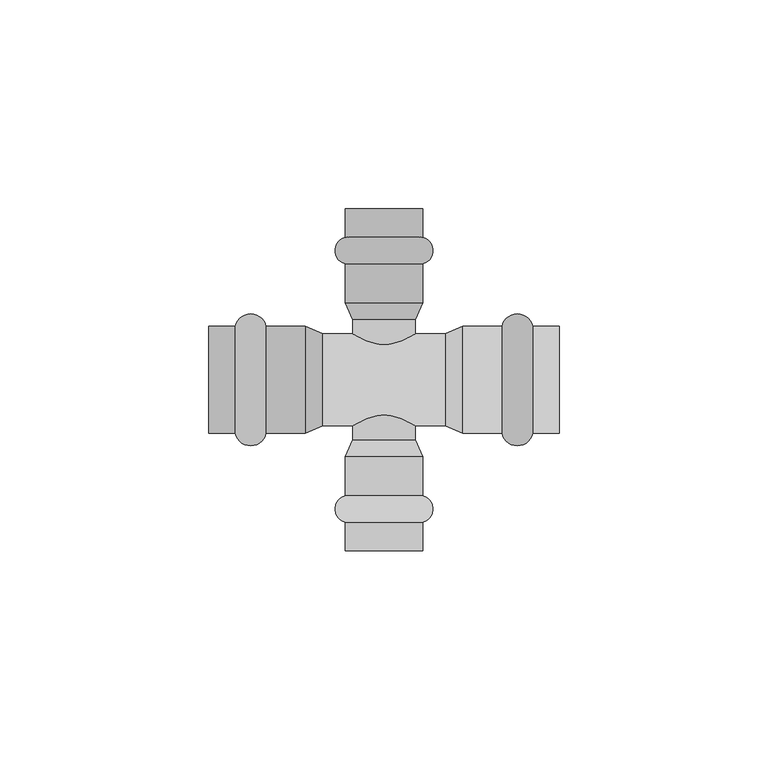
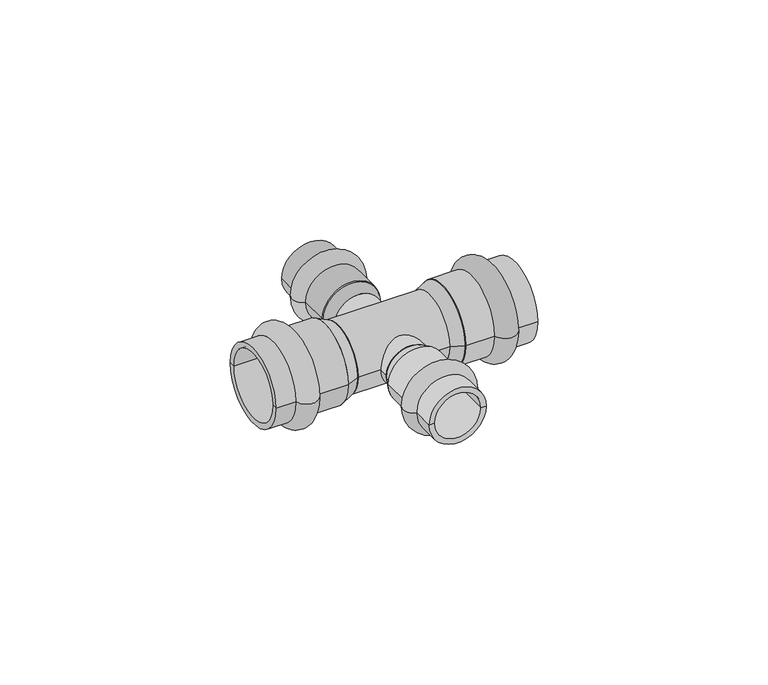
"""IFC4 building model written with IfcOpenShell, lengths in millimetres: pipe fitting geometry, VALTEC_VTi.941.I_Крестовина нержавеющая сталь : VTi.941.I."""

from ifc_helpers import new_model, si_unit, point, frame, origin, origin_2d, place, context, project, spatial, polyline, circle_curve, ellipse_curve, trimmed, segment, composite_curve, outline, extrude, source, transform, mapped, element, save
from ifc_brep_helpers import plane_surface, cylinder_surface, revolved_surface, advanced_brep


def pipe_fitting_c23358fb(model_context):
    return source(origin(), model_context, "Body", "SolidModel", [
        advanced_brep(
        [(9.25, -34.1122777, 0.0), (-9.25, -34.1122777, 0.0), (-9.25, -27.7877223, 0.0), (9.25, -27.7877223, 0.0), (9.25, -41.0, 0.0), (-9.25, -41.0, 0.0), (7.5, -41.0, 0.0), (-7.5, -41.0, 0.0), (7.5, -18.45, 0.0), (-7.5, -18.45, 0.0), (9.25, -18.45, 0.0), (-9.25, -18.45, 0.0)],
        [
            (0, 1, circle_curve(frame((0.0, -34.1122777, 0.0), z_axis=(0.0, 1.0, 0.0), x_axis=(-1.0, 0.0, 0.0)), 9.25)),
            (1, 2, circle_curve(frame((-8.5, -30.95, 0.0), z_axis=(0.0, 0.0, -1.0), x_axis=(0.0, 1.0, 0.0)), 3.25)),
            (2, 3, circle_curve(frame((0.0, -27.7877223, 0.0), z_axis=(0.0, -1.0, 0.0), x_axis=(-1.0, 0.0, 0.0)), 9.25)),
            (3, 0, circle_curve(frame((8.5, -30.95, 0.0), z_axis=(0.0, 0.0, -1.0), x_axis=(0.0, 1.0, 0.0)), 3.25)),
            (1, 0, circle_curve(frame((0.0, -34.1122777, 0.0), z_axis=(0.0, 1.0, 0.0), x_axis=(-1.0, 0.0, 0.0)), 9.25)),
            (3, 2, circle_curve(frame((0.0, -27.7877223, 0.0), z_axis=(0.0, -1.0, 0.0), x_axis=(-1.0, 0.0, 0.0)), 9.25)),
            (4, 5, circle_curve(frame((0.0, -41.0, 0.0), z_axis=(0.0, 1.0, 0.0), x_axis=(-1.0, 0.0, 0.0)), 9.25)),
            (5, 1),
            (0, 4),
            (5, 4, circle_curve(frame((0.0, -41.0, 0.0), z_axis=(0.0, 1.0, 0.0), x_axis=(-1.0, 0.0, 0.0)), 9.25)),
            (6, 7, circle_curve(frame((0.0, -41.0, 0.0), z_axis=(0.0, 1.0, 0.0), x_axis=(-1.0, 0.0, 0.0)), 7.5)),
            (7, 5),
            (4, 6),
            (7, 6, circle_curve(frame((0.0, -41.0, 0.0), z_axis=(0.0, 1.0, 0.0), x_axis=(-1.0, 0.0, 0.0)), 7.5)),
            (8, 9, circle_curve(frame((0.0, -18.45, 0.0), z_axis=(0.0, 1.0, 0.0), x_axis=(-1.0, 0.0, 0.0)), 7.5)),
            (9, 7),
            (6, 8),
            (9, 8, circle_curve(frame((0.0, -18.45, 0.0), z_axis=(0.0, 1.0, 0.0), x_axis=(-1.0, 0.0, 0.0)), 7.5)),
            (10, 11, circle_curve(frame((0.0, -18.45, 0.0), z_axis=(0.0, 1.0, 0.0), x_axis=(-1.0, 0.0, 0.0)), 9.25)),
            (11, 9),
            (8, 10),
            (11, 10, circle_curve(frame((0.0, -18.45, 0.0), z_axis=(0.0, 1.0, 0.0), x_axis=(-1.0, 0.0, 0.0)), 9.25)),
            (2, 11),
            (10, 3),
        ],
        [
            revolved_surface(trimmed(ellipse_curve(frame((-8.5, -30.95, 0.0), z_axis=(0.0, 0.0, 1.0), x_axis=(0.0, 1.0, 0.0)), 3.25, 3.25), [point((-9.25, -27.7877223, 0.0))], [point((-9.25, -34.1122777, 0.0))], True, "CARTESIAN"), (0.0, -44.5364426, 0.0), (0.0, -1.0, 0.0)),
            cylinder_surface(frame((0.0, -44.5364426, 0.0), z_axis=(0.0, -1.0, 0.0), x_axis=(-1.0, 0.0, 0.0)), 9.25),
            plane_surface(frame((0.0, -41.0, 0.0), z_axis=(0.0, -1.0, 0.0), x_axis=(-1.0, 0.0, 0.0))),
            revolved_surface(polyline([(-7.5, -41.0, 0.0), (-7.5, -18.45, 0.0)]), (0.0, -44.5364426, 0.0), (0.0, -1.0, 0.0)),
            plane_surface(frame((0.0, -18.45, 0.0), z_axis=(0.0, 1.0, 0.0), x_axis=(-1.0, 0.0, 0.0))),
        ],
        [
            (0, [[1, 2, 3, 4]]),
            (0, [[5, -4, 6, -2]]),
            (1, [[7, 8, -1, 9]]),
            (1, [[10, -9, -5, -8]]),
            (2, [[11, 12, -7, 13]]),
            (2, [[14, -13, -10, -12]]),
            (3, [[15, 16, -11, 17]]),
            (3, [[18, -17, -14, -16]]),
            (4, [[19, 20, -15, 21]]),
            (4, [[22, -21, -18, -20]]),
            (1, [[-3, 23, -19, 24]]),
            (1, [[-6, -24, -22, -23]]),
        ],
    ),
        advanced_brep(
        [(35.6242346, 12.8, 0.0), (35.6242346, -12.8, 0.0), (28.2757654, -12.8, 0.0), (28.2757654, 12.8, 0.0), (42.0, 12.8, 0.0), (42.0, -12.8, 0.0), (42.0, 11.0, 0.0), (42.0, -11.0, 0.0), (18.9, 11.0, 0.0), (18.9, -11.0, 0.0), (18.9, 12.8, 0.0), (18.9, -12.8, 0.0)],
        [
            (0, 1, circle_curve(frame((35.6242346, 0.0, 0.0), z_axis=(-1.0, 0.0, 0.0), x_axis=(0.0, -1.0, 0.0)), 12.8)),
            (1, 2, circle_curve(frame((31.95, -12.05, 0.0), z_axis=(0.0, 0.0, -1.0), x_axis=(-1.0, 0.0, 0.0)), 3.75)),
            (2, 3, circle_curve(frame((28.2757654, 0.0, 0.0), z_axis=(1.0, 0.0, 0.0), x_axis=(0.0, -1.0, 0.0)), 12.8)),
            (3, 0, circle_curve(frame((31.95, 12.05, 0.0), z_axis=(0.0, 0.0, -1.0), x_axis=(-1.0, 0.0, 0.0)), 3.75)),
            (1, 0, circle_curve(frame((35.6242346, 0.0, 0.0), z_axis=(-1.0, 0.0, 0.0), x_axis=(0.0, -1.0, 0.0)), 12.8)),
            (3, 2, circle_curve(frame((28.2757654, 0.0, 0.0), z_axis=(1.0, 0.0, 0.0), x_axis=(0.0, -1.0, 0.0)), 12.8)),
            (4, 5, circle_curve(frame((42.0, 0.0, 0.0), z_axis=(-1.0, 0.0, 0.0), x_axis=(0.0, -1.0, 0.0)), 12.8)),
            (5, 1),
            (0, 4),
            (5, 4, circle_curve(frame((42.0, 0.0, 0.0), z_axis=(-1.0, 0.0, 0.0), x_axis=(0.0, -1.0, 0.0)), 12.8)),
            (6, 7, circle_curve(frame((42.0, 0.0, 0.0), z_axis=(-1.0, 0.0, 0.0), x_axis=(0.0, -1.0, 0.0)), 11.0)),
            (7, 5),
            (4, 6),
            (7, 6, circle_curve(frame((42.0, 0.0, 0.0), z_axis=(-1.0, 0.0, 0.0), x_axis=(0.0, -1.0, 0.0)), 11.0)),
            (8, 9, circle_curve(frame((18.9, 0.0, 0.0), z_axis=(-1.0, 0.0, 0.0), x_axis=(0.0, -1.0, 0.0)), 11.0)),
            (9, 7),
            (6, 8),
            (9, 8, circle_curve(frame((18.9, 0.0, 0.0), z_axis=(-1.0, 0.0, 0.0), x_axis=(0.0, -1.0, 0.0)), 11.0)),
            (10, 11, circle_curve(frame((18.9, 0.0, 0.0), z_axis=(-1.0, 0.0, 0.0), x_axis=(0.0, -1.0, 0.0)), 12.8)),
            (11, 9),
            (8, 10),
            (11, 10, circle_curve(frame((18.9, 0.0, 0.0), z_axis=(-1.0, 0.0, 0.0), x_axis=(0.0, -1.0, 0.0)), 12.8)),
            (2, 11),
            (10, 3),
        ],
        [
            revolved_surface(trimmed(ellipse_curve(frame((31.95, -12.05, 0.0), z_axis=(0.0, 0.0, 1.0), x_axis=(-1.0, 0.0, 0.0)), 3.75, 3.75), [point((28.2757654, -12.8, 0.0))], [point((35.6242346, -12.8, 0.0))], True, "CARTESIAN"), (45.5364426, 0.0, 0.0), (1.0, 0.0, 0.0)),
            cylinder_surface(frame((45.5364426, 0.0, 0.0), z_axis=(1.0, 0.0, 0.0), x_axis=(0.0, -1.0, 0.0)), 12.8),
            plane_surface(frame((42.0, 0.0, 0.0), z_axis=(1.0, 0.0, 0.0), x_axis=(0.0, -1.0, 0.0))),
            revolved_surface(polyline([(42.0, -11.0, 0.0), (18.9, -11.0, 0.0)]), (45.5364426, 0.0, 0.0), (1.0, 0.0, 0.0)),
            plane_surface(frame((18.9, 0.0, 0.0), z_axis=(-1.0, 0.0, 0.0), x_axis=(0.0, -1.0, 0.0))),
        ],
        [
            (0, [[1, 2, 3, 4]]),
            (0, [[5, -4, 6, -2]]),
            (1, [[7, 8, -1, 9]]),
            (1, [[10, -9, -5, -8]]),
            (2, [[11, 12, -7, 13]]),
            (2, [[14, -13, -10, -12]]),
            (3, [[15, 16, -11, 17]]),
            (3, [[18, -17, -14, -16]]),
            (4, [[19, 20, -15, 21]]),
            (4, [[22, -21, -18, -20]]),
            (1, [[-3, 23, -19, 24]]),
            (1, [[-6, -24, -22, -23]]),
        ],
    ),
        advanced_brep(
        [(-35.6242346, -12.8, 0.0), (-35.6242346, 12.8, 0.0), (-28.2757654, 12.8, 0.0), (-28.2757654, -12.8, 0.0), (-42.0, -12.8, 0.0), (-42.0, 12.8, 0.0), (-42.0, -11.0, 0.0), (-42.0, 11.0, 0.0), (-18.9, -11.0, 0.0), (-18.9, 11.0, 0.0), (-18.9, -12.8, 0.0), (-18.9, 12.8, 0.0)],
        [
            (0, 1, circle_curve(frame((-35.6242346, 0.0, 0.0), z_axis=(1.0, 0.0, 0.0), x_axis=(0.0, 1.0, 0.0)), 12.8)),
            (1, 2, circle_curve(frame((-31.95, 12.05, 0.0), z_axis=(0.0, 0.0, -1.0), x_axis=(1.0, 0.0, 0.0)), 3.75)),
            (2, 3, circle_curve(frame((-28.2757654, 0.0, 0.0), z_axis=(-1.0, 0.0, 0.0), x_axis=(0.0, 1.0, 0.0)), 12.8)),
            (3, 0, circle_curve(frame((-31.95, -12.05, 0.0), z_axis=(0.0, 0.0, -1.0), x_axis=(1.0, 0.0, 0.0)), 3.75)),
            (1, 0, circle_curve(frame((-35.6242346, 0.0, 0.0), z_axis=(1.0, 0.0, 0.0), x_axis=(0.0, 1.0, 0.0)), 12.8)),
            (3, 2, circle_curve(frame((-28.2757654, 0.0, 0.0), z_axis=(-1.0, 0.0, 0.0), x_axis=(0.0, 1.0, 0.0)), 12.8)),
            (4, 5, circle_curve(frame((-42.0, 0.0, 0.0), z_axis=(1.0, 0.0, 0.0), x_axis=(0.0, 1.0, 0.0)), 12.8)),
            (5, 1),
            (0, 4),
            (5, 4, circle_curve(frame((-42.0, 0.0, 0.0), z_axis=(1.0, 0.0, 0.0), x_axis=(0.0, 1.0, 0.0)), 12.8)),
            (6, 7, circle_curve(frame((-42.0, 0.0, 0.0), z_axis=(1.0, 0.0, 0.0), x_axis=(0.0, 1.0, 0.0)), 11.0)),
            (7, 5),
            (4, 6),
            (7, 6, circle_curve(frame((-42.0, 0.0, 0.0), z_axis=(1.0, 0.0, 0.0), x_axis=(0.0, 1.0, 0.0)), 11.0)),
            (8, 9, circle_curve(frame((-18.9, 0.0, 0.0), z_axis=(1.0, 0.0, 0.0), x_axis=(0.0, 1.0, 0.0)), 11.0)),
            (9, 7),
            (6, 8),
            (9, 8, circle_curve(frame((-18.9, 0.0, 0.0), z_axis=(1.0, 0.0, 0.0), x_axis=(0.0, 1.0, 0.0)), 11.0)),
            (10, 11, circle_curve(frame((-18.9, 0.0, 0.0), z_axis=(1.0, 0.0, 0.0), x_axis=(0.0, 1.0, 0.0)), 12.8)),
            (11, 9),
            (8, 10),
            (11, 10, circle_curve(frame((-18.9, 0.0, 0.0), z_axis=(1.0, 0.0, 0.0), x_axis=(0.0, 1.0, 0.0)), 12.8)),
            (2, 11),
            (10, 3),
        ],
        [
            revolved_surface(trimmed(ellipse_curve(frame((-31.95, 12.05, 0.0), z_axis=(0.0, 0.0, 1.0), x_axis=(1.0, 0.0, 0.0)), 3.75, 3.75), [point((-28.2757654, 12.8, 0.0))], [point((-35.6242346, 12.8, 0.0))], True, "CARTESIAN"), (-45.5364426, 0.0, 0.0), (-1.0, 0.0, 0.0)),
            cylinder_surface(frame((-45.5364426, 0.0, 0.0), z_axis=(-1.0, 0.0, 0.0), x_axis=(0.0, 1.0, 0.0)), 12.8),
            plane_surface(frame((-42.0, 0.0, 0.0), z_axis=(-1.0, 0.0, 0.0), x_axis=(0.0, 1.0, 0.0))),
            revolved_surface(polyline([(-42.0, 11.0, 0.0), (-18.9, 11.0, 0.0)]), (-45.5364426, 0.0, 0.0), (-1.0, 0.0, 0.0)),
            plane_surface(frame((-18.9, 0.0, 0.0), z_axis=(1.0, 0.0, 0.0), x_axis=(0.0, 1.0, 0.0))),
        ],
        [
            (0, [[1, 2, 3, 4]]),
            (0, [[5, -4, 6, -2]]),
            (1, [[7, 8, -1, 9]]),
            (1, [[10, -9, -5, -8]]),
            (2, [[11, 12, -7, 13]]),
            (2, [[14, -13, -10, -12]]),
            (3, [[15, 16, -11, 17]]),
            (3, [[18, -17, -14, -16]]),
            (4, [[19, 20, -15, 21]]),
            (4, [[22, -21, -18, -20]]),
            (1, [[-3, 23, -19, 24]]),
            (1, [[-6, -24, -22, -23]]),
        ],
    ),
        advanced_brep(
        [(-9.25, 34.1122777, 0.0), (9.25, 34.1122777, 0.0), (9.25, 27.7877223, 0.0), (-9.25, 27.7877223, 0.0), (-9.25, 41.0, 0.0), (9.25, 41.0, 0.0), (-7.5, 41.0, 0.0), (7.5, 41.0, 0.0), (-7.5, 18.45, 0.0), (7.5, 18.45, 0.0), (-9.25, 18.45, 0.0), (9.25, 18.45, 0.0)],
        [
            (0, 1, circle_curve(frame((0.0, 34.1122777, 0.0), z_axis=(0.0, -1.0, 0.0), x_axis=(1.0, 0.0, 0.0)), 9.25)),
            (1, 2, circle_curve(frame((8.5, 30.95, 0.0), z_axis=(0.0, 0.0, -1.0), x_axis=(0.0, -1.0, 0.0)), 3.25)),
            (2, 3, circle_curve(frame((0.0, 27.7877223, 0.0), z_axis=(0.0, 1.0, 0.0), x_axis=(1.0, 0.0, 0.0)), 9.25)),
            (3, 0, circle_curve(frame((-8.5, 30.95, 0.0), z_axis=(0.0, 0.0, -1.0), x_axis=(0.0, -1.0, 0.0)), 3.25)),
            (1, 0, circle_curve(frame((0.0, 34.1122777, 0.0), z_axis=(0.0, -1.0, 0.0), x_axis=(1.0, 0.0, 0.0)), 9.25)),
            (3, 2, circle_curve(frame((0.0, 27.7877223, 0.0), z_axis=(0.0, 1.0, 0.0), x_axis=(1.0, 0.0, 0.0)), 9.25)),
            (4, 5, circle_curve(frame((0.0, 41.0, 0.0), z_axis=(0.0, -1.0, 0.0), x_axis=(1.0, 0.0, 0.0)), 9.25)),
            (5, 1),
            (0, 4),
            (5, 4, circle_curve(frame((0.0, 41.0, 0.0), z_axis=(0.0, -1.0, 0.0), x_axis=(1.0, 0.0, 0.0)), 9.25)),
            (6, 7, circle_curve(frame((0.0, 41.0, 0.0), z_axis=(0.0, -1.0, 0.0), x_axis=(1.0, 0.0, 0.0)), 7.5)),
            (7, 5),
            (4, 6),
            (7, 6, circle_curve(frame((0.0, 41.0, 0.0), z_axis=(0.0, -1.0, 0.0), x_axis=(1.0, 0.0, 0.0)), 7.5)),
            (8, 9, circle_curve(frame((0.0, 18.45, 0.0), z_axis=(0.0, -1.0, 0.0), x_axis=(1.0, 0.0, 0.0)), 7.5)),
            (9, 7),
            (6, 8),
            (9, 8, circle_curve(frame((0.0, 18.45, 0.0), z_axis=(0.0, -1.0, 0.0), x_axis=(1.0, 0.0, 0.0)), 7.5)),
            (10, 11, circle_curve(frame((0.0, 18.45, 0.0), z_axis=(0.0, -1.0, 0.0), x_axis=(1.0, 0.0, 0.0)), 9.25)),
            (11, 9),
            (8, 10),
            (11, 10, circle_curve(frame((0.0, 18.45, 0.0), z_axis=(0.0, -1.0, 0.0), x_axis=(1.0, 0.0, 0.0)), 9.25)),
            (2, 11),
            (10, 3),
        ],
        [
            revolved_surface(trimmed(ellipse_curve(frame((8.5, 30.95, 0.0), z_axis=(0.0, 0.0, 1.0), x_axis=(0.0, -1.0, 0.0)), 3.25, 3.25), [point((9.25, 27.7877223, 0.0))], [point((9.25, 34.1122777, 0.0))], True, "CARTESIAN"), (0.0, 44.5364426, 0.0), (0.0, 1.0, 0.0)),
            cylinder_surface(frame((0.0, 44.5364426, 0.0), z_axis=(0.0, 1.0, 0.0), x_axis=(1.0, 0.0, 0.0)), 9.25),
            plane_surface(frame((0.0, 41.0, 0.0), z_axis=(0.0, 1.0, 0.0), x_axis=(1.0, 0.0, 0.0))),
            revolved_surface(polyline([(7.5, 41.0, 0.0), (7.5, 18.45, 0.0)]), (0.0, 44.5364426, 0.0), (0.0, 1.0, 0.0)),
            plane_surface(frame((0.0, 18.45, 0.0), z_axis=(0.0, -1.0, 0.0), x_axis=(1.0, 0.0, 0.0))),
        ],
        [
            (0, [[1, 2, 3, 4]]),
            (0, [[5, -4, 6, -2]]),
            (1, [[7, 8, -1, 9]]),
            (1, [[10, -9, -5, -8]]),
            (2, [[11, 12, -7, 13]]),
            (2, [[14, -13, -10, -12]]),
            (3, [[15, 16, -11, 17]]),
            (3, [[18, -17, -14, -16]]),
            (4, [[19, 20, -15, 21]]),
            (4, [[22, -21, -18, -20]]),
            (1, [[-3, 23, -19, 24]]),
            (1, [[-6, -24, -22, -23]]),
        ],
    ),
        extrude(outline(composite_curve([segment(trimmed(circle_curve(origin_2d(), 11.0), [point((-11.0, 0.0))], [point((11.0, 0.0))], False, "CARTESIAN"), True, "CONTINUOUS"), segment(trimmed(circle_curve(origin_2d(), 11.0), [point((11.0, 0.0))], [point((-11.0, 0.0))], False, "CARTESIAN"), True, "CONTINUOUS")], self_intersect=False)), frame((-14.7, 0.0, 0.0), z_axis=(1.0, 0.0, 0.0), x_axis=(0.0, 1.0, 0.0)), (0.0, 0.0, 1.0), 29.4),
        extrude(outline(composite_curve([segment(trimmed(circle_curve(origin_2d(), 7.5), [point((0.0, -7.5))], [point((0.0, 7.5))], False, "CARTESIAN"), True, "CONTINUOUS"), segment(trimmed(circle_curve(origin_2d(), 7.5), [point((0.0, 7.5))], [point((0.0, -7.5))], False, "CARTESIAN"), True, "CONTINUOUS")], self_intersect=False)), frame((0.0, -14.35, 0.0), z_axis=(0.0, 1.0, 0.0), x_axis=(0.0, 0.0, 1.0)), (0.0, 0.0, 1.0), 28.7),
        advanced_brep(
        [(-18.9, -12.8, 0.0), (-18.9, 12.8, 0.0), (-14.7, -11.0, 0.0), (-14.7, 11.0, 0.0)],
        [
            (0, 1, circle_curve(frame((-18.9, 0.0, 0.0), z_axis=(-1.0, 0.0, 0.0), x_axis=(0.0, -1.0, 0.0)), 12.8)),
            (1, 0, circle_curve(frame((-18.9, 0.0, 0.0), z_axis=(-1.0, 0.0, 0.0), x_axis=(0.0, 1.0, 0.0)), 12.8)),
            (2, 3, circle_curve(frame((-14.7, 0.0, 0.0), z_axis=(1.0, 0.0, 0.0), x_axis=(0.0, 1.0, 0.0)), 11.0)),
            (3, 2, circle_curve(frame((-14.7, 0.0, 0.0), z_axis=(1.0, 0.0, 0.0), x_axis=(0.0, -1.0, 0.0)), 11.0)),
            (2, 0),
            (1, 3),
        ],
        [
            plane_surface(frame((-18.9, 0.0, 0.0), z_axis=(-1.0, 0.0, 0.0), x_axis=(0.0, 0.0, 1.0))),
            plane_surface(frame((-14.7, 0.0, 0.0), z_axis=(1.0, 0.0, 0.0), x_axis=(0.0, 0.0, 1.0))),
            revolved_surface(polyline([(-14.700000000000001, -11.000000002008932, 0.0), (-18.9, -12.8, 0.0)]), (10.9666667, 0.0, 0.0), (-1.0, 0.0, 0.0)),
            revolved_surface(polyline([(-14.700000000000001, 11.000000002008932, 0.0), (-18.9, 12.8, 0.0)]), (10.9666667, 0.0, 0.0), (-1.0, 0.0, 0.0)),
        ],
        [
            (0, [[1, 2]]),
            (1, [[3, 4]]),
            (2, [[-3, 5, -2, 6]]),
            (3, [[-4, -6, -1, -5]]),
        ],
    ),
        advanced_brep(
        [(18.9, -12.8, 0.0), (18.9, 12.8, 0.0), (14.7, -11.0, 0.0), (14.7, 11.0, 0.0)],
        [
            (0, 1, circle_curve(frame((18.9, 0.0, 0.0), z_axis=(1.0, 0.0, 0.0), x_axis=(0.0, -1.0, 0.0)), 12.8)),
            (1, 0, circle_curve(frame((18.9, 0.0, 0.0), z_axis=(1.0, 0.0, 0.0), x_axis=(0.0, 1.0, 0.0)), 12.8)),
            (2, 3, circle_curve(frame((14.7, 0.0, 0.0), z_axis=(-1.0, 0.0, 0.0), x_axis=(0.0, 1.0, 0.0)), 11.0)),
            (3, 2, circle_curve(frame((14.7, 0.0, 0.0), z_axis=(-1.0, 0.0, 0.0), x_axis=(0.0, -1.0, 0.0)), 11.0)),
            (3, 1),
            (0, 2),
        ],
        [
            plane_surface(frame((18.9, 0.0, 0.0), z_axis=(1.0, 0.0, 0.0), x_axis=(0.0, 0.0, -1.0))),
            plane_surface(frame((14.7, 0.0, 0.0), z_axis=(-1.0, 0.0, 0.0), x_axis=(0.0, 0.0, -1.0))),
            revolved_surface(polyline([(14.700000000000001, 11.000000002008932, 0.0), (18.9, 12.8, 0.0)]), (-10.9666667, 0.0, 0.0), (1.0, 0.0, 0.0)),
            revolved_surface(polyline([(14.700000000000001, -11.000000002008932, 0.0), (18.9, -12.8, 0.0)]), (-10.9666667, 0.0, 0.0), (1.0, 0.0, 0.0)),
        ],
        [
            (0, [[1, 2]]),
            (1, [[3, 4]]),
            (2, [[-4, 5, -1, 6]]),
            (3, [[-3, -6, -2, -5]]),
        ],
    ),
        advanced_brep(
        [(-9.25, -18.45, 0.0), (9.25, -18.45, 0.0), (-7.5, -14.35, 0.0), (7.5, -14.35, 0.0)],
        [
            (0, 1, circle_curve(frame((0.0, -18.45, 0.0), z_axis=(0.0, -1.0, 0.0), x_axis=(-1.0, 0.0, 0.0)), 9.25)),
            (1, 0, circle_curve(frame((0.0, -18.45, 0.0), z_axis=(0.0, -1.0, 0.0), x_axis=(1.0, 0.0, 0.0)), 9.25)),
            (2, 3, circle_curve(frame((0.0, -14.35, 0.0), z_axis=(0.0, 1.0, 0.0), x_axis=(1.0, 0.0, 0.0)), 7.5)),
            (3, 2, circle_curve(frame((0.0, -14.35, 0.0), z_axis=(0.0, 1.0, 0.0), x_axis=(-1.0, 0.0, 0.0)), 7.5)),
            (3, 1),
            (0, 2),
        ],
        [
            plane_surface(frame((0.0, -18.45, 0.0), z_axis=(0.0, -1.0, 0.0), x_axis=(0.0, 0.0, 1.0))),
            plane_surface(frame((0.0, -14.35, 0.0), z_axis=(0.0, 1.0, 0.0), x_axis=(0.0, 0.0, 1.0))),
            revolved_surface(polyline([(7.500000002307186, -14.350000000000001, 0.0), (9.25, -18.45, 0.0)]), (0.0, 3.2214286, 0.0), (0.0, -1.0, 0.0)),
            revolved_surface(polyline([(-7.500000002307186, -14.350000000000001, 0.0), (-9.25, -18.45, 0.0)]), (0.0, 3.2214286, 0.0), (0.0, -1.0, 0.0)),
        ],
        [
            (0, [[1, 2]]),
            (1, [[3, 4]]),
            (2, [[-4, 5, -1, 6]]),
            (3, [[-3, -6, -2, -5]]),
        ],
    ),
        advanced_brep(
        [(-9.25, 18.45, 0.0), (9.25, 18.45, 0.0), (-7.5, 14.35, 0.0), (7.5, 14.35, 0.0)],
        [
            (0, 1, circle_curve(frame((0.0, 18.45, 0.0), z_axis=(0.0, 1.0, 0.0), x_axis=(-1.0, 0.0, 0.0)), 9.25)),
            (1, 0, circle_curve(frame((0.0, 18.45, 0.0), z_axis=(0.0, 1.0, 0.0), x_axis=(1.0, 0.0, 0.0)), 9.25)),
            (2, 3, circle_curve(frame((0.0, 14.35, 0.0), z_axis=(0.0, -1.0, 0.0), x_axis=(1.0, 0.0, 0.0)), 7.5)),
            (3, 2, circle_curve(frame((0.0, 14.35, 0.0), z_axis=(0.0, -1.0, 0.0), x_axis=(-1.0, 0.0, 0.0)), 7.5)),
            (2, 0),
            (1, 3),
        ],
        [
            plane_surface(frame((0.0, 18.45, 0.0), z_axis=(0.0, 1.0, 0.0), x_axis=(0.0, 0.0, -1.0))),
            plane_surface(frame((0.0, 14.35, 0.0), z_axis=(0.0, -1.0, 0.0), x_axis=(0.0, 0.0, -1.0))),
            revolved_surface(polyline([(-7.500000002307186, 14.350000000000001, 0.0), (-9.25, 18.45, 0.0)]), (0.0, -3.2214286, 0.0), (0.0, 1.0, 0.0)),
            revolved_surface(polyline([(7.500000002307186, 14.350000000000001, 0.0), (9.25, 18.45, 0.0)]), (0.0, -3.2214286, 0.0), (0.0, 1.0, 0.0)),
        ],
        [
            (0, [[1, 2]]),
            (1, [[3, 4]]),
            (2, [[-3, 5, -2, 6]]),
            (3, [[-4, -6, -1, -5]]),
        ],
    ),
    ])


if __name__ == "__main__":
    model = new_model("IFC4")
    model_context = context("Model", 3, world=origin())
    ifc_project = project(units=[si_unit("LENGTHUNIT", "METRE", prefix="MILLI")], contexts=[model_context])
    site = spatial("IfcSite", under=ifc_project)
    building = spatial("IfcBuilding", under=site)
    placement = place(None, origin())
    pipe_fitting_shape = pipe_fitting_c23358fb(model_context)
    element("IfcPipeFitting", 1, ObjectType="VALTEC_VTi.941.I_Крестовина нержавеющая сталь : VTi.941.I", at=placement, inside=building, context=model_context, shape_type="MappedRepresentation", body=[
        mapped(pipe_fitting_shape, transform((0.0, 0.0, 0.0), x_axis=(1.0, 0.0, 0.0), y_axis=(0.0, 1.0, 0.0), z_axis=(0.0, 0.0, 1.0))),
    ])
    save(model, "model.ifc")
